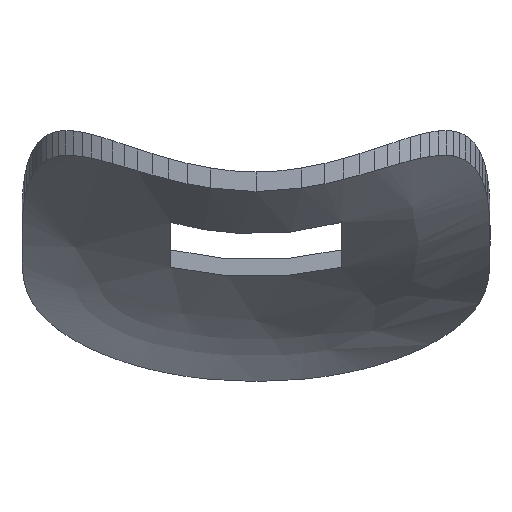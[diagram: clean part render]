
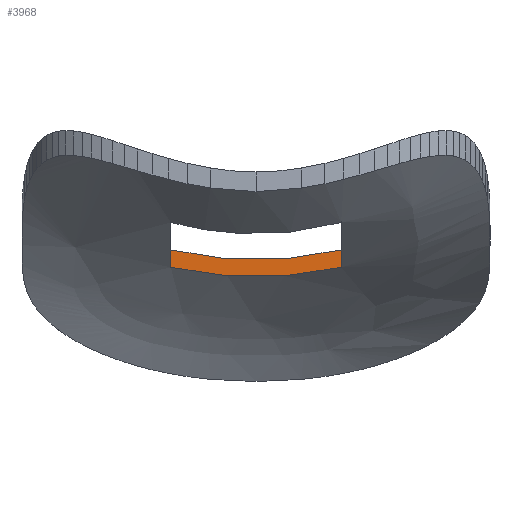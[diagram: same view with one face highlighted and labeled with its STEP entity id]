
A CAD part, top view. The second image highlights one B-rep face of the part: STEP entity #3968.
In plain terms, the highlighted planar face has unit normal (0, 0, 1).
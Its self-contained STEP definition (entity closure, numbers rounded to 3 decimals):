
#1002 = EDGE_CURVE('',#1003,#1005,#1007,.T.);
#1003 = VERTEX_POINT('',#1004);
#1004 = CARTESIAN_POINT('',(9.,-32.387,97.75));
#1005 = VERTEX_POINT('',#1006);
#1006 = CARTESIAN_POINT('',(-9.,-32.387,97.75));
#1007 = B_SPLINE_CURVE_WITH_KNOTS('',5,(#1008,#1009,#1010,#1011,#1012,
    #1013,#1014,#1015,#1016,#1017),.UNSPECIFIED.,.F.,.F.,(6,4,6),(0.,
    0.5,1.),.UNSPECIFIED.);
#1008 = CARTESIAN_POINT('',(9.,-32.387,97.75));
#1009 = CARTESIAN_POINT('',(7.232,-32.796,97.75));
#1010 = CARTESIAN_POINT('',(5.44,-33.103,97.75));
#1011 = CARTESIAN_POINT('',(3.633,-33.308,97.75));
#1012 = CARTESIAN_POINT('',(1.818,-33.411,97.75));
#1013 = CARTESIAN_POINT('',(-1.813,-33.411,97.75));
#1014 = CARTESIAN_POINT('',(-3.629,-33.309,97.75));
#1015 = CARTESIAN_POINT('',(-5.438,-33.103,97.75));
#1016 = CARTESIAN_POINT('',(-7.23,-32.796,97.75));
#1017 = CARTESIAN_POINT('',(-9.,-32.387,97.75));
#3968 = ADVANCED_FACE('',(#3969),#4001,.T.);
#3969 = FACE_BOUND('',#3970,.T.);
#3970 = EDGE_LOOP('',(#3971,#3979,#3980,#3988));
#3971 = ORIENTED_EDGE('',*,*,#3972,.F.);
#3972 = EDGE_CURVE('',#1005,#3973,#3975,.T.);
#3973 = VERTEX_POINT('',#3974);
#3974 = CARTESIAN_POINT('',(-9.,-30.55,97.75));
#3975 = LINE('',#3976,#3977);
#3976 = CARTESIAN_POINT('',(-9.,-46.55,97.75));
#3977 = VECTOR('',#3978,1.);
#3978 = DIRECTION('',(0.,1.,0.));
#3979 = ORIENTED_EDGE('',*,*,#1002,.F.);
#3980 = ORIENTED_EDGE('',*,*,#3981,.T.);
#3981 = EDGE_CURVE('',#1003,#3982,#3984,.T.);
#3982 = VERTEX_POINT('',#3983);
#3983 = CARTESIAN_POINT('',(9.,-30.55,97.75));
#3984 = LINE('',#3985,#3986);
#3985 = CARTESIAN_POINT('',(9.,-46.55,97.75));
#3986 = VECTOR('',#3987,1.);
#3987 = DIRECTION('',(0.,1.,0.));
#3988 = ORIENTED_EDGE('',*,*,#3989,.T.);
#3989 = EDGE_CURVE('',#3982,#3973,#3990,.T.);
#3990 = B_SPLINE_CURVE_WITH_KNOTS('',5,(#3991,#3992,#3993,#3994,#3995,
    #3996,#3997,#3998,#3999,#4000),.UNSPECIFIED.,.F.,.F.,(6,4,6),(0.,
    0.501,1.),.UNSPECIFIED.);
#3991 = CARTESIAN_POINT('',(9.,-30.55,97.75));
#3992 = CARTESIAN_POINT('',(7.231,-30.981,97.75));
#3993 = CARTESIAN_POINT('',(5.436,-31.305,97.75));
#3994 = CARTESIAN_POINT('',(3.623,-31.521,97.75));
#3995 = CARTESIAN_POINT('',(1.802,-31.628,97.75));
#3996 = CARTESIAN_POINT('',(-1.832,-31.626,97.75));
#3997 = CARTESIAN_POINT('',(-3.645,-31.518,97.75));
#3998 = CARTESIAN_POINT('',(-5.45,-31.302,97.75));
#3999 = CARTESIAN_POINT('',(-7.238,-30.979,97.75));
#4000 = CARTESIAN_POINT('',(-9.,-30.55,97.75));
#4001 = PLANE('',#4002);
#4002 = AXIS2_PLACEMENT_3D('',#4003,#4004,#4005);
#4003 = CARTESIAN_POINT('',(-9.,-46.55,97.75));
#4004 = DIRECTION('',(0.,0.,1.));
#4005 = DIRECTION('',(1.,0.,0.));
